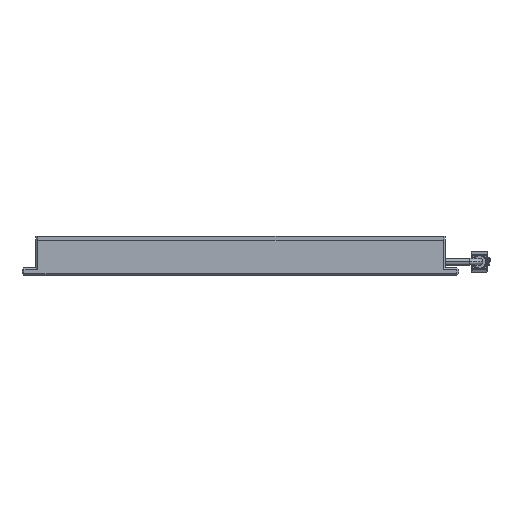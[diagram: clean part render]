
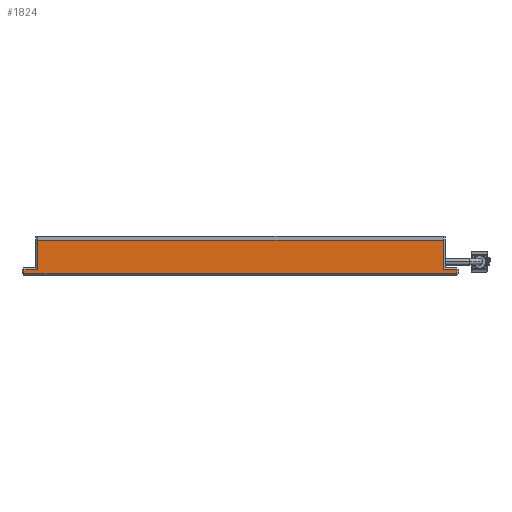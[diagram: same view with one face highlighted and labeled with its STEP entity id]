
A CAD part, left-side view. The second image highlights one B-rep face of the part: STEP entity #1824.
In plain terms, the highlighted planar face has unit normal (-1, 0, 0).
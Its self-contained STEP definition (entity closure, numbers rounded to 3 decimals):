
#50 = CARTESIAN_POINT ( 'NONE',  ( -105., 111., 1. ) ) ;
#226 = EDGE_CURVE ( 'NONE', #8330, #2648, #2449, .T. ) ;
#366 = LINE ( 'NONE', #5700, #2876 ) ;
#508 = CARTESIAN_POINT ( 'NONE',  ( -105., -104., 18. ) ) ;
#938 = ORIENTED_EDGE ( 'NONE', *, *, #1052, .T. ) ;
#1008 = EDGE_CURVE ( 'NONE', #5909, #8330, #2204, .T. ) ;
#1052 = EDGE_CURVE ( 'NONE', #1499, #3066, #3840, .T. ) ;
#1081 = VERTEX_POINT ( 'NONE', #508 ) ;
#1086 = CARTESIAN_POINT ( 'NONE',  ( -105., -105., 3. ) ) ;
#1111 = VECTOR ( 'NONE', #5840, 1000. ) ;
#1499 = VERTEX_POINT ( 'NONE', #7961 ) ;
#1641 = AXIS2_PLACEMENT_3D ( 'NONE', #3464, #2766, #8361 ) ;
#1824 = ADVANCED_FACE ( 'NONE', ( #3625 ), #6279, .F. ) ;
#1832 = ORIENTED_EDGE ( 'NONE', *, *, #2842, .T. ) ;
#2015 = VECTOR ( 'NONE', #2200, 1000. ) ;
#2161 = DIRECTION ( 'NONE',  ( 0., 0., 1. ) ) ;
#2179 = ORIENTED_EDGE ( 'NONE', *, *, #1008, .T. ) ;
#2200 = DIRECTION ( 'NONE',  ( 0., 0., -1. ) ) ;
#2204 = LINE ( 'NONE', #5899, #7558 ) ;
#2407 = DIRECTION ( 'NONE',  ( 0., -1., 0. ) ) ;
#2449 = LINE ( 'NONE', #5782, #1111 ) ;
#2539 = VECTOR ( 'NONE', #3214, 1000. ) ;
#2621 = EDGE_CURVE ( 'NONE', #6721, #8383, #6278, .T. ) ;
#2648 = VERTEX_POINT ( 'NONE', #5739 ) ;
#2766 = DIRECTION ( 'NONE',  ( 1., 0., 0. ) ) ;
#2778 = VECTOR ( 'NONE', #7485, 1000. ) ;
#2783 = VECTOR ( 'NONE', #7350, 1000. ) ;
#2842 = EDGE_CURVE ( 'NONE', #8383, #5909, #4865, .T. ) ;
#2876 = VECTOR ( 'NONE', #2161, 1000. ) ;
#3066 = VERTEX_POINT ( 'NONE', #6997 ) ;
#3157 = CARTESIAN_POINT ( 'NONE',  ( -105., -104., 18. ) ) ;
#3214 = DIRECTION ( 'NONE',  ( 0., 1., 0. ) ) ;
#3464 = CARTESIAN_POINT ( 'NONE',  ( -105., -105., 18. ) ) ;
#3622 = ORIENTED_EDGE ( 'NONE', *, *, #226, .T. ) ;
#3625 = FACE_OUTER_BOUND ( 'NONE', #6891, .T. ) ;
#3840 = LINE ( 'NONE', #1086, #2539 ) ;
#4865 = LINE ( 'NONE', #8178, #2778 ) ;
#5311 = EDGE_CURVE ( 'NONE', #6721, #1081, #7502, .T. ) ;
#5700 = CARTESIAN_POINT ( 'NONE',  ( -105., -111., 4. ) ) ;
#5739 = CARTESIAN_POINT ( 'NONE',  ( -105., -111., 1. ) ) ;
#5782 = CARTESIAN_POINT ( 'NONE',  ( -105., -112., 1. ) ) ;
#5802 = ORIENTED_EDGE ( 'NONE', *, *, #5311, .F. ) ;
#5840 = DIRECTION ( 'NONE',  ( 0., -1., 0. ) ) ;
#5899 = CARTESIAN_POINT ( 'NONE',  ( -105., 111., 0. ) ) ;
#5909 = VERTEX_POINT ( 'NONE', #6395 ) ;
#5988 = EDGE_CURVE ( 'NONE', #3066, #1081, #7172, .T. ) ;
#6278 = LINE ( 'NONE', #6382, #2015 ) ;
#6279 = PLANE ( 'NONE',  #1641 ) ;
#6382 = CARTESIAN_POINT ( 'NONE',  ( -105., 104., 18. ) ) ;
#6389 = ORIENTED_EDGE ( 'NONE', *, *, #5988, .T. ) ;
#6395 = CARTESIAN_POINT ( 'NONE',  ( -105., 111., 3. ) ) ;
#6410 = CARTESIAN_POINT ( 'NONE',  ( -105., 104., 18. ) ) ;
#6721 = VERTEX_POINT ( 'NONE', #6410 ) ;
#6766 = EDGE_CURVE ( 'NONE', #2648, #1499, #366, .T. ) ;
#6891 = EDGE_LOOP ( 'NONE', ( #5802, #7721, #1832, #2179, #3622, #8471, #938, #6389 ) ) ;
#6911 = CARTESIAN_POINT ( 'NONE',  ( -105., 104., 3. ) ) ;
#6997 = CARTESIAN_POINT ( 'NONE',  ( -105., -104., 3. ) ) ;
#7172 = LINE ( 'NONE', #3157, #2783 ) ;
#7271 = CARTESIAN_POINT ( 'NONE',  ( -105., -105., 18. ) ) ;
#7292 = VECTOR ( 'NONE', #2407, 1000. ) ;
#7316 = DIRECTION ( 'NONE',  ( 0., 0., -1. ) ) ;
#7350 = DIRECTION ( 'NONE',  ( 0., 0., 1. ) ) ;
#7485 = DIRECTION ( 'NONE',  ( 0., 1., 0. ) ) ;
#7502 = LINE ( 'NONE', #7271, #7292 ) ;
#7558 = VECTOR ( 'NONE', #7316, 1000. ) ;
#7721 = ORIENTED_EDGE ( 'NONE', *, *, #2621, .T. ) ;
#7961 = CARTESIAN_POINT ( 'NONE',  ( -105., -111., 3. ) ) ;
#8178 = CARTESIAN_POINT ( 'NONE',  ( -105., -105., 3. ) ) ;
#8330 = VERTEX_POINT ( 'NONE', #50 ) ;
#8361 = DIRECTION ( 'NONE',  ( 0., 0., -1. ) ) ;
#8383 = VERTEX_POINT ( 'NONE', #6911 ) ;
#8471 = ORIENTED_EDGE ( 'NONE', *, *, #6766, .T. ) ;
